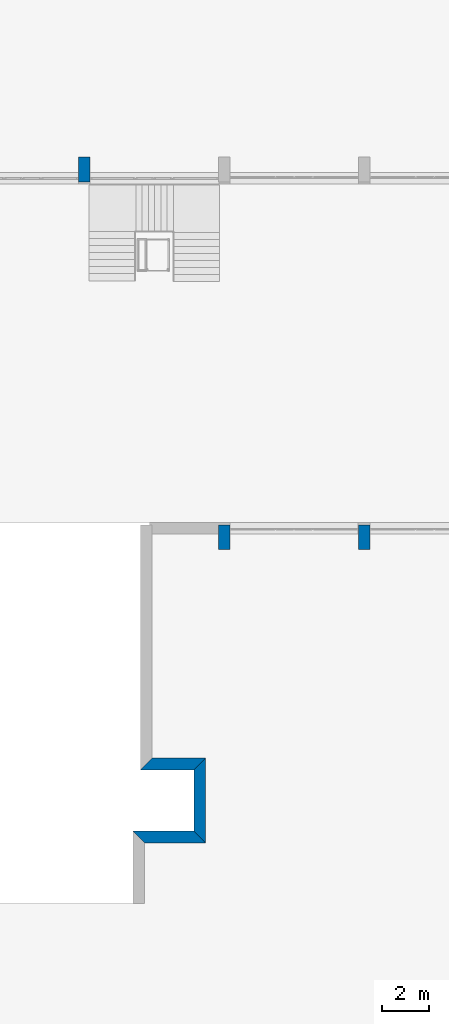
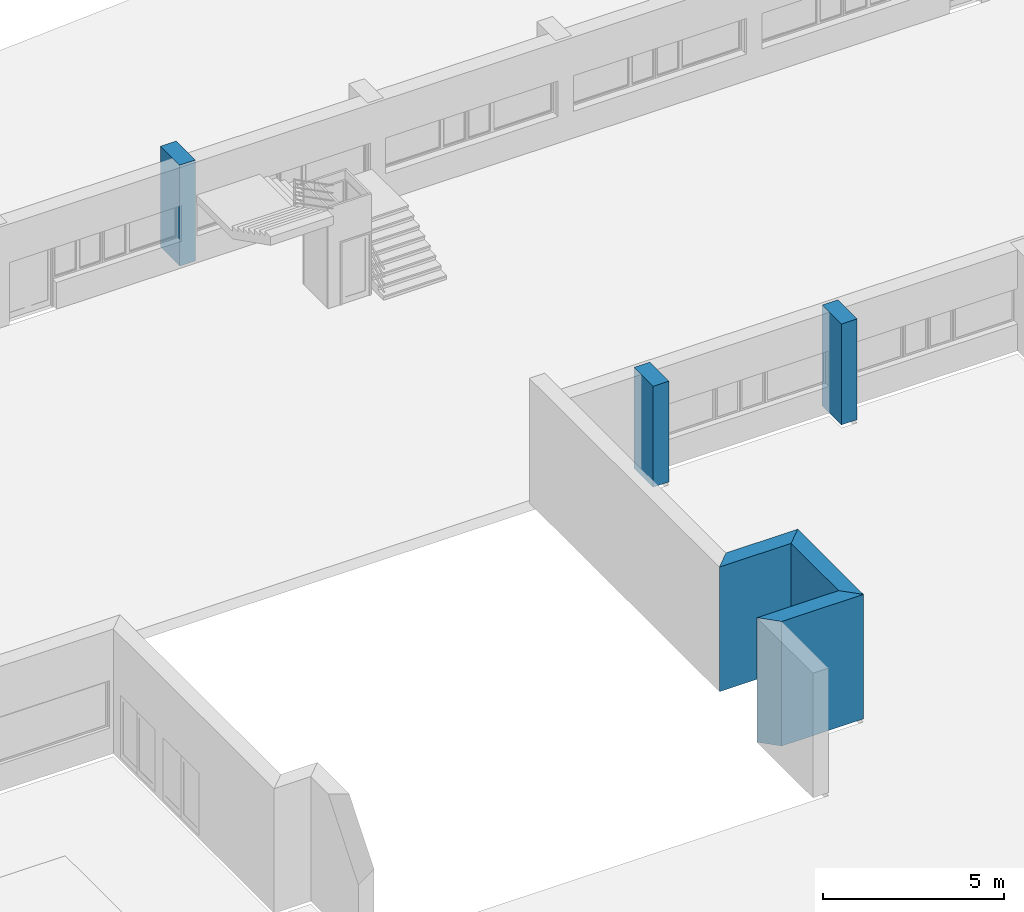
# One storey, part 11 of 36: 6 walls.
"""IFC2X3 building model written with IfcOpenShell, lengths in millimetres."""

from ifc_helpers import new_model, entity, si_unit, converted_unit, money_unit, direction, frame, origin_with_axes, place, context, subcontext, project, spatial, polyline, outline, extrude, material, layer, layer_set, layer_usage, type_object, element, save


model = new_model("IFC2X3")

# Units and contexts
model_context = context("Model", 3, precision=1e-05, world=origin_with_axes(), true_north=direction((0.0, 1.0)))
body_context = subcontext(model_context, "Body", "Model", "MODEL_VIEW")
ifc_project = project(units=[si_unit("LENGTHUNIT", "METRE", prefix="MILLI"), si_unit("AREAUNIT", "SQUARE_METRE"), si_unit("VOLUMEUNIT", "CUBIC_METRE"), converted_unit("PLANEANGLEUNIT", "DEGREE", entity("IfcPlaneAngleMeasure", 0.0174532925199), si_unit("PLANEANGLEUNIT", "RADIAN"), dimensions=[0, 0, 0, 0, 0, 0, 0]), si_unit("SOLIDANGLEUNIT", "STERADIAN"), money_unit("USD"), converted_unit("TIMEUNIT", "Year", entity("IfcTimeMeasure", 31556926.0), si_unit("TIMEUNIT", "SECOND"), dimensions=[0, 0, 0, 0, 0, 0, 0]), si_unit("MASSUNIT", "GRAM"), si_unit("THERMODYNAMICTEMPERATUREUNIT", "DEGREE_CELSIUS"), si_unit("LUMINOUSINTENSITYUNIT", "LUMEN")], contexts=[model_context])

# Site, building, storey
site_placement = place(None, origin_with_axes())
site = spatial("IfcSite", under=ifc_project, at=site_placement, Name="Site", CompositionType="ELEMENT")
building_placement = place(site_placement, origin_with_axes())
building = spatial("IfcBuilding", under=site, at=building_placement, Name="Building", CompositionType="ELEMENT")
storey_placement = place(building_placement, frame((0.0, 0.0, -3400.0), z_axis=(0.0, 0.0, 1.0), x_axis=(1.0, 0.0, 0.0)))
storey = spatial("IfcBuildingStorey", under=building, at=storey_placement, Name="1KORRUS", CompositionType="ELEMENT", Elevation=-3400.0)

# Walls
ifc_material = material(Name="Olemasolevad seinad tellis, uus viimistlus")
ifc_layer = layer(ifc_material, 500.0, ventilated="UNKNOWN")
ifc_layer_set = layer_set([ifc_layer], Name="Olemasolevad seinad tellis, uus viimistlus 500")
ifc_layer_usage_1 = layer_usage(ifc_layer_set, "AXIS2", "POSITIVE", -100.0)
wall_type = type_object("IfcWallType", Name="Olemasolevad seinad tellis, uus viimistlus 500", PredefinedType="NOTDEFINED")
wall_1_placement = place(storey_placement, frame((-7342.64900028, -32962.3136981, 0.0), z_axis=(0.0, 0.0, 1.0), x_axis=(-1.0, 0.0, 0.0)))
element("IfcWallStandardCase", 1, at=wall_1_placement, inside=storey, type_object=wall_type, material=ifc_layer_usage_1, Name="VS1", ObjectType="VS1", context=body_context, shape_type="SweptSolid", body=[
    extrude(outline(polyline([(100.0, -100.0), (2706.24410485, -100.0), (2206.24410485, 400.0), (-400.0, 400.0), (100.0, -100.0)])), origin_with_axes(), (0.0, 0.0, 1.0), 4200.0),
])
ifc_layer_usage_2 = layer_usage(ifc_layer_set, "AXIS2", "POSITIVE", -100.0)
wall_2_placement = place(storey_placement, frame((-7342.64900028, -29835.2237523, 0.0), z_axis=(0.0, 0.0, 1.0), x_axis=(0.0, -1.0, 0.0)))
element("IfcWallStandardCase", 2, at=wall_2_placement, inside=storey, type_object=wall_type, material=ifc_layer_usage_2, Name="VS1", ObjectType="VS1", context=body_context, shape_type="SweptSolid", body=[
    extrude(outline(polyline([(400.0, -100.0), (3027.0899458, -100.0), (3527.0899458, 400.0), (-100.0, 400.0), (400.0, -100.0)])), origin_with_axes(), (0.0, 0.0, 1.0), 4200.0),
])
ifc_layer_usage_3 = layer_usage(ifc_layer_set, "AXIS2", "POSITIVE", -100.0)
wall_3_placement = place(storey_placement, frame((-7342.64900028, -29835.2237523, 0.0), z_axis=(0.0, 0.0, 1.0), x_axis=(-1.0, 0.0, 0.0)))
element("IfcWallStandardCase", 3, at=wall_3_placement, inside=storey, type_object=wall_type, material=ifc_layer_usage_3, Name="VS1", ObjectType="VS1", context=body_context, shape_type="SweptSolid", body=[
    extrude(outline(polyline([(-400.0, -100.0), (1889.19669309, -100.0), (2389.19669309, 400.0), (100.0, 400.0), (-400.0, -100.0)])), origin_with_axes(), (0.0, 0.0, 1.0), 4200.0),
])
ifc_layer_usage_4 = layer_usage(ifc_layer_set, "AXIS2", "POSITIVE", -100.0)
wall_4_placement = place(storey_placement, frame((-5990.29670331, -20796.6419407, 0.0), z_axis=(0.0, 0.0, 1.0), x_axis=(0.0, 1.0, 0.0)))
element("IfcWallStandardCase", 4, at=wall_4_placement, inside=storey, type_object=wall_type, material=ifc_layer_usage_4, Name="VS1", ObjectType="VS1", context=body_context, shape_type="SweptSolid", body=[
    extrude(outline(polyline([(0.0, -100.0), (1057.76625064, -100.0), (1057.76625064, 400.0), (0.0, 400.0), (0.0, -100.0)])), origin_with_axes(), (0.0, 0.0, 1.0), 3400.0),
])
ifc_layer_usage_5 = layer_usage(ifc_layer_set, "AXIS2", "POSITIVE", -100.0)
wall_5_placement = place(storey_placement, frame((9.70329668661, -20796.6419407, 0.0), z_axis=(0.0, 0.0, 1.0), x_axis=(0.0, 1.0, 0.0)))
element("IfcWallStandardCase", 5, at=wall_5_placement, inside=storey, type_object=wall_type, material=ifc_layer_usage_5, Name="VS1", ObjectType="VS1", context=body_context, shape_type="SweptSolid", body=[
    extrude(outline(polyline([(0.0, -100.0), (1057.76625064, -100.0), (1057.76625064, 400.0), (0.0, 400.0), (0.0, -100.0)])), origin_with_axes(), (0.0, 0.0, 1.0), 3400.0),
])
ifc_layer_usage_6 = layer_usage(ifc_layer_set, "AXIS2", "POSITIVE", -100.0)
wall_6_placement = place(storey_placement, frame((-11990.2967033, -5039.6041088, 0.0), z_axis=(0.0, 0.0, 1.0), x_axis=(0.0, 1.0, 0.0)))
element("IfcWallStandardCase", 6, at=wall_6_placement, inside=storey, type_object=wall_type, material=ifc_layer_usage_6, Name="VS1", ObjectType="VS1", context=body_context, shape_type="SweptSolid", body=[
    extrude(outline(polyline([(0.0, -100.0), (1057.40204125, -100.0), (1057.40204125, 400.0), (0.0, 400.0), (0.0, -100.0)])), origin_with_axes(), (0.0, 0.0, 1.0), 3400.0),
])

save(model, "model.ifc")
